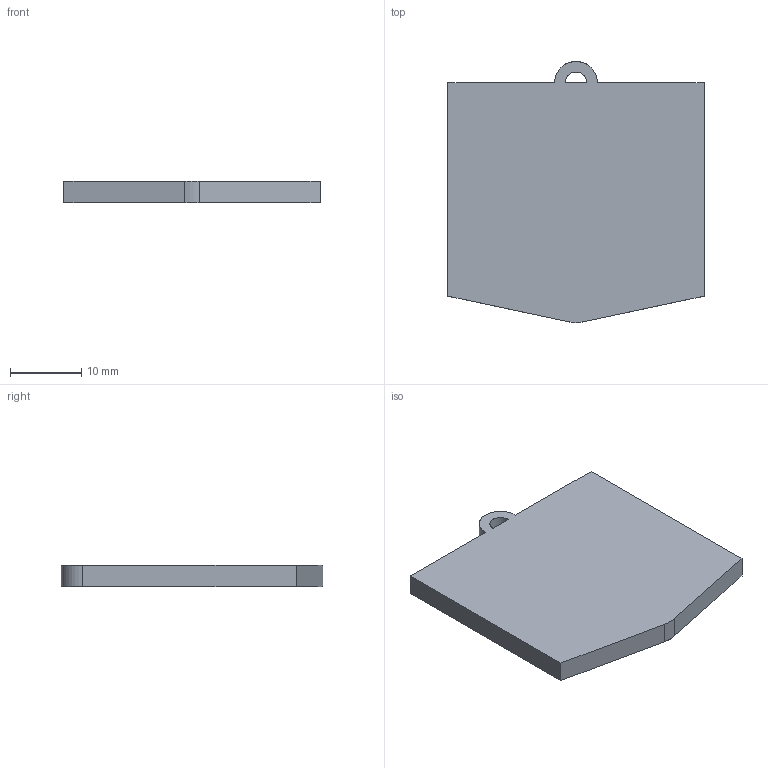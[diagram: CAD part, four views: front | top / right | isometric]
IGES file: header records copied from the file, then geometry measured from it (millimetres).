
Start section: SolidWorks IGES file using analytic representation for surfaces
Global section: file name: E:\Studium\I4.0\fts\Kleine Bauteile\Tuer.IGS; native system: SolidWorks 2013; preprocessor: SolidWorks 2013; author: Ludwig Jiawei Luo; date: 180202.213804; units: millimetre
Bounding box: 36 x 36.72 x 3 mm (x, y, z)
Surface area: 2750.6 mm2 (no closed solid volume)
Topology: 0 solids, 0 shells, 12 faces, 122 edges, 122 vertices
Faces by surface type: bspline 9, revolution 3
